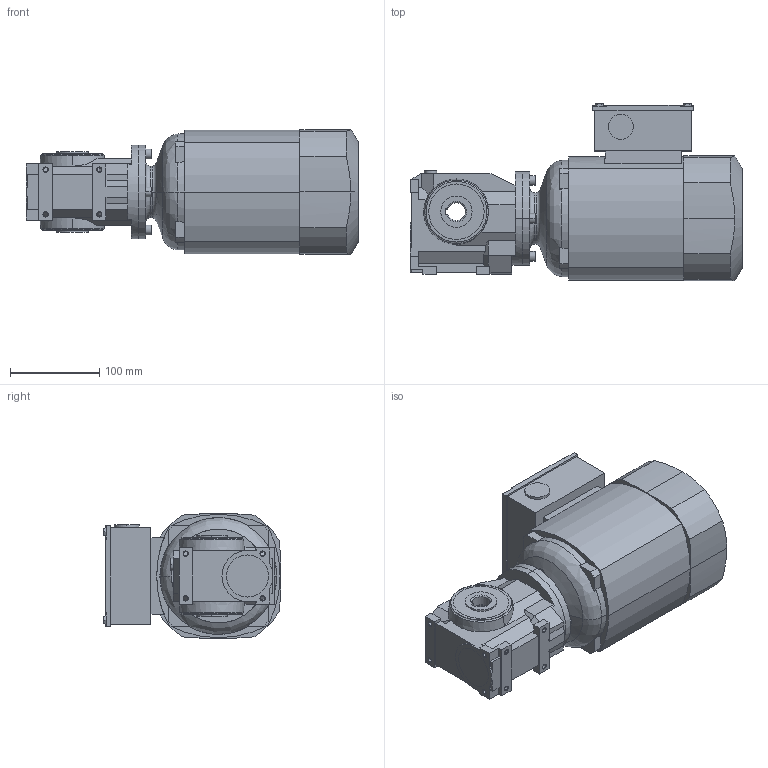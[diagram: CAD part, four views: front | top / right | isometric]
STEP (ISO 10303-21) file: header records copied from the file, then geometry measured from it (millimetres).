
FILE_DESCRIPTION(('STEP AP214'),'1');
FILE_NAME('STEP-File.stp','2018-01-01T00:00:00',(' '),('KEB'),' ','KEB-DRIVE',' ');
FILE_SCHEMA(('AUTOMOTIVE_DESIGN { 1 0 10303 214 1 1 1 1 }'));
Length unit declared in the file: millimetre
Products named in the file (8): s0a; wa_hw_20; cl0; dm80_kkn; kk08; PLUG_M25; ndm80; S02A DM80K4§CAD13
Assembly tree (7 placements, depth 2):
  S02A DM80K4§CAD13
    s0a
    wa_hw_20
    cl0
    dm80_kkn
    kk08
    PLUG_M25
    ndm80
Bounding box: 371.5 x 198.9 x 139.8 mm (x, y, z)
Volume: 5238812.3 mm3; surface area: 354602 mm2
Topology: 7 solids, 7 shells, 420 faces, 1199 edges, 894 vertices
Faces by surface type: plane 266, cylinder 76, cone 62, torus 10, extrusion 4, revolution 2
Entity records: 15883 total; most frequent: CARTESIAN_POINT 4970, ORIENTED_EDGE 2398, DIRECTION 1699, EDGE_CURVE 1199, VERTEX_POINT 894, VECTOR 860, LINE 856, EDGE_LOOP 541
